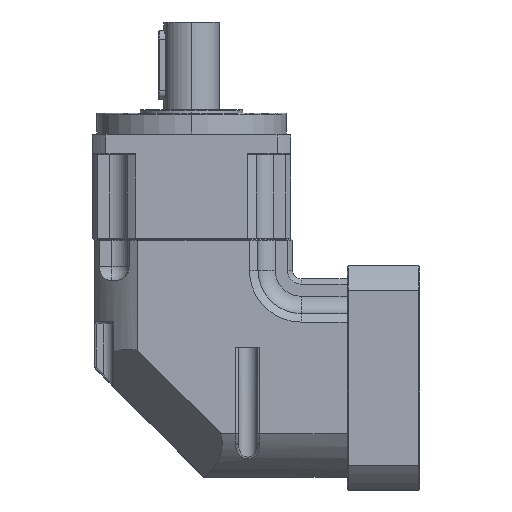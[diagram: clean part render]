
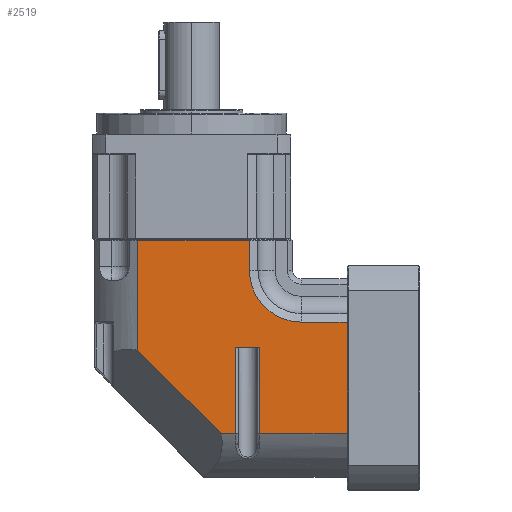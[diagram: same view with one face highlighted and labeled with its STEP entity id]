
A CAD part, left-side view. The second image highlights one B-rep face of the part: STEP entity #2519.
In plain terms, the highlighted planar face has unit normal (-1, 0, 0).
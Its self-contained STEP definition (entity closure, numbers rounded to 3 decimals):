
#42 = VERTEX_POINT ( 'NONE', #3829 ) ;
#164 = CARTESIAN_POINT ( 'NONE',  ( -57.5, 49.083, -59. ) ) ;
#191 = ORIENTED_EDGE ( 'NONE', *, *, #11566, .T. ) ;
#201 = CARTESIAN_POINT ( 'NONE',  ( -57.5, 35.083, -59. ) ) ;
#277 = LINE ( 'NONE', #6712, #8167 ) ;
#364 = ORIENTED_EDGE ( 'NONE', *, *, #7896, .T. ) ;
#463 = FACE_OUTER_BOUND ( 'NONE', #6737, .T. ) ;
#496 = VERTEX_POINT ( 'NONE', #8775 ) ;
#1040 = CARTESIAN_POINT ( 'NONE',  ( -57.5, 41.1, -14. ) ) ;
#1053 = CARTESIAN_POINT ( 'NONE',  ( -57.5, 49.083, -59. ) ) ;
#1458 = LINE ( 'NONE', #5704, #7636 ) ;
#1524 = CARTESIAN_POINT ( 'NONE',  ( -57.5, 81.68, -84.68 ) ) ;
#2028 = VECTOR ( 'NONE', #10871, 1000. ) ;
#2272 = DIRECTION ( 'NONE',  ( 0., 0., -1. ) ) ;
#2446 = VERTEX_POINT ( 'NONE', #12988 ) ;
#2519 = ADVANCED_FACE ( 'NONE', ( #463 ), #3771, .F. ) ;
#2576 = ORIENTED_EDGE ( 'NONE', *, *, #15746, .T. ) ;
#2604 = ORIENTED_EDGE ( 'NONE', *, *, #15078, .T. ) ;
#2716 = AXIS2_PLACEMENT_3D ( 'NONE', #3716, #13046, #6411 ) ;
#2723 = CARTESIAN_POINT ( 'NONE',  ( -57.5, 105.9, -20. ) ) ;
#2827 = VERTEX_POINT ( 'NONE', #6099 ) ;
#2859 = LINE ( 'NONE', #164, #16933 ) ;
#2985 = LINE ( 'NONE', #3865, #17074 ) ;
#3105 = LINE ( 'NONE', #8969, #4969 ) ;
#3135 = VECTOR ( 'NONE', #5598, 1000. ) ;
#3680 = AXIS2_PLACEMENT_3D ( 'NONE', #5113, #13100, #15735 ) ;
#3716 = CARTESIAN_POINT ( 'NONE',  ( -57.5, 11., -14. ) ) ;
#3731 = ORIENTED_EDGE ( 'NONE', *, *, #8096, .F. ) ;
#3771 = PLANE ( 'NONE',  #3680 ) ;
#3829 = CARTESIAN_POINT ( 'NONE',  ( -57.5, 35.083, -108.9 ) ) ;
#3865 = CARTESIAN_POINT ( 'NONE',  ( -57.5, 11., -44.1 ) ) ;
#3962 = DIRECTION ( 'NONE',  ( 0., 0., 1. ) ) ;
#4202 = VECTOR ( 'NONE', #16900, 1000. ) ;
#4308 = VERTEX_POINT ( 'NONE', #8432 ) ;
#4349 = CARTESIAN_POINT ( 'NONE',  ( -57.5, 105.9, -60.461 ) ) ;
#4479 = VERTEX_POINT ( 'NONE', #1053 ) ;
#4865 = ORIENTED_EDGE ( 'NONE', *, *, #10771, .T. ) ;
#4969 = VECTOR ( 'NONE', #2272, 1000. ) ;
#5113 = CARTESIAN_POINT ( 'NONE',  ( -57.5, 11., -14. ) ) ;
#5275 = VERTEX_POINT ( 'NONE', #7080 ) ;
#5325 = VERTEX_POINT ( 'NONE', #11299 ) ;
#5598 = DIRECTION ( 'NONE',  ( 0., 0., 1. ) ) ;
#5704 = CARTESIAN_POINT ( 'NONE',  ( -57.5, 11., 3.5 ) ) ;
#6099 = CARTESIAN_POINT ( 'NONE',  ( -57.5, 105.9, 3.5 ) ) ;
#6411 = DIRECTION ( 'NONE',  ( 0., 0., -1. ) ) ;
#6467 = VECTOR ( 'NONE', #8257, 1000. ) ;
#6712 = CARTESIAN_POINT ( 'NONE',  ( -57.5, 41.1, -14. ) ) ;
#6725 = CARTESIAN_POINT ( 'NONE',  ( -57.5, 140., -108.9 ) ) ;
#6737 = EDGE_LOOP ( 'NONE', ( #3731, #9844, #4865, #15842, #2576, #12121, #11431, #15680, #364, #8404, #191, #2604 ) ) ;
#7080 = CARTESIAN_POINT ( 'NONE',  ( -57.5, 41.1, 3.5 ) ) ;
#7627 = VERTEX_POINT ( 'NONE', #4349 ) ;
#7636 = VECTOR ( 'NONE', #12464, 1000. ) ;
#7896 = EDGE_CURVE ( 'NONE', #5325, #4479, #2859, .T. ) ;
#7990 = DIRECTION ( 'NONE',  ( 0., 0., 1. ) ) ;
#8096 = EDGE_CURVE ( 'NONE', #2446, #496, #3105, .T. ) ;
#8167 = VECTOR ( 'NONE', #3962, 1000. ) ;
#8257 = DIRECTION ( 'NONE',  ( 0., -1., 0. ) ) ;
#8404 = ORIENTED_EDGE ( 'NONE', *, *, #10375, .F. ) ;
#8432 = CARTESIAN_POINT ( 'NONE',  ( -57.5, 11., -44.1 ) ) ;
#8447 = LINE ( 'NONE', #15564, #9274 ) ;
#8775 = CARTESIAN_POINT ( 'NONE',  ( -57.5, -15.6, -108.9 ) ) ;
#8969 = CARTESIAN_POINT ( 'NONE',  ( -57.5, -15.6, -14. ) ) ;
#9274 = VECTOR ( 'NONE', #10344, 1000. ) ;
#9526 = CARTESIAN_POINT ( 'NONE',  ( -57.5, 11., -59. ) ) ;
#9703 = VERTEX_POINT ( 'NONE', #201 ) ;
#9844 = ORIENTED_EDGE ( 'NONE', *, *, #12376, .F. ) ;
#10309 = LINE ( 'NONE', #1524, #13402 ) ;
#10344 = DIRECTION ( 'NONE',  ( 0., 0., -1. ) ) ;
#10375 = EDGE_CURVE ( 'NONE', #9703, #4479, #16325, .T. ) ;
#10771 = EDGE_CURVE ( 'NONE', #4308, #11505, #14276, .T. ) ;
#10871 = DIRECTION ( 'NONE',  ( 0., 1., 0. ) ) ;
#11066 = VERTEX_POINT ( 'NONE', #11600 ) ;
#11299 = CARTESIAN_POINT ( 'NONE',  ( -57.5, 49.083, -108.9 ) ) ;
#11431 = ORIENTED_EDGE ( 'NONE', *, *, #12238, .T. ) ;
#11505 = VERTEX_POINT ( 'NONE', #1040 ) ;
#11566 = EDGE_CURVE ( 'NONE', #9703, #42, #8447, .T. ) ;
#11600 = CARTESIAN_POINT ( 'NONE',  ( -57.5, 57.461, -108.9 ) ) ;
#12121 = ORIENTED_EDGE ( 'NONE', *, *, #14990, .F. ) ;
#12146 = LINE ( 'NONE', #14269, #4202 ) ;
#12160 = DIRECTION ( 'NONE',  ( 0., -0.707, -0.707 ) ) ;
#12238 = EDGE_CURVE ( 'NONE', #7627, #11066, #10309, .T. ) ;
#12376 = EDGE_CURVE ( 'NONE', #4308, #2446, #2985, .T. ) ;
#12464 = DIRECTION ( 'NONE',  ( 0., 1., 0. ) ) ;
#12988 = CARTESIAN_POINT ( 'NONE',  ( -57.5, -15.6, -44.1 ) ) ;
#13046 = DIRECTION ( 'NONE',  ( 1., 0., 0. ) ) ;
#13100 = DIRECTION ( 'NONE',  ( 1., 0., 0. ) ) ;
#13402 = VECTOR ( 'NONE', #12160, 1000. ) ;
#13768 = EDGE_CURVE ( 'NONE', #11505, #5275, #277, .T. ) ;
#13778 = EDGE_CURVE ( 'NONE', #11066, #5325, #12146, .T. ) ;
#14269 = CARTESIAN_POINT ( 'NONE',  ( -57.5, 140., -108.9 ) ) ;
#14276 = CIRCLE ( 'NONE', #2716, 30.1 ) ;
#14375 = LINE ( 'NONE', #6725, #6467 ) ;
#14990 = EDGE_CURVE ( 'NONE', #7627, #2827, #16205, .T. ) ;
#15078 = EDGE_CURVE ( 'NONE', #42, #496, #14375, .T. ) ;
#15564 = CARTESIAN_POINT ( 'NONE',  ( -57.5, 35.083, -108.9 ) ) ;
#15680 = ORIENTED_EDGE ( 'NONE', *, *, #13778, .T. ) ;
#15735 = DIRECTION ( 'NONE',  ( 0., 0., -1. ) ) ;
#15746 = EDGE_CURVE ( 'NONE', #5275, #2827, #1458, .T. ) ;
#15842 = ORIENTED_EDGE ( 'NONE', *, *, #13768, .T. ) ;
#16205 = LINE ( 'NONE', #2723, #3135 ) ;
#16325 = LINE ( 'NONE', #9526, #2028 ) ;
#16900 = DIRECTION ( 'NONE',  ( 0., -1., 0. ) ) ;
#16933 = VECTOR ( 'NONE', #7990, 1000. ) ;
#17074 = VECTOR ( 'NONE', #17131, 1000. ) ;
#17131 = DIRECTION ( 'NONE',  ( 0., -1., 0. ) ) ;
